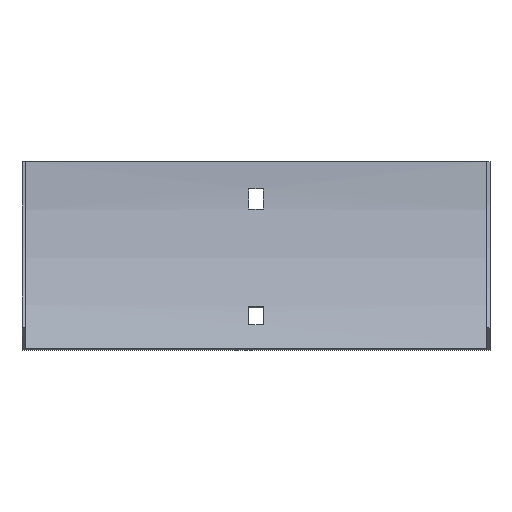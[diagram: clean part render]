
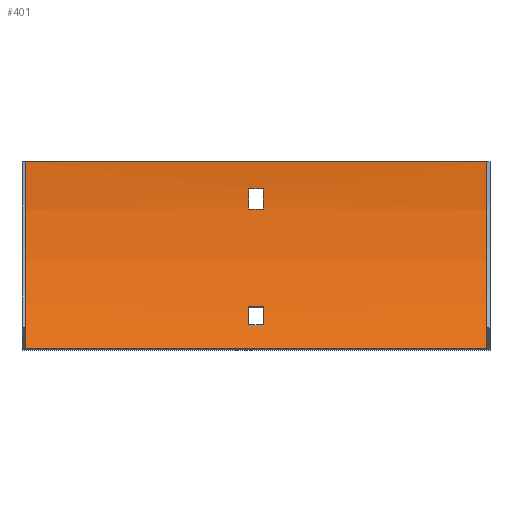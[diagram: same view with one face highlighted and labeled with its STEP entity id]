
A CAD part, front view. The second image highlights one B-rep face of the part: STEP entity #401.
In plain terms, the highlighted cylindrical face has radius 165.5 mm (diameter 331 mm), a partial arc.
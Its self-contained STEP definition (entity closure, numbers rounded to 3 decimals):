
#1 = DIRECTION ( 'NONE',  ( 0., 0., 1. ) ) ;
#3 = CIRCLE ( 'NONE', #74, 165.5 ) ;
#8 = CARTESIAN_POINT ( 'NONE',  ( -3.25, -2.838, -21. ) ) ;
#9 = AXIS2_PLACEMENT_3D ( 'NONE', #508, #593, #498 ) ;
#16 = CARTESIAN_POINT ( 'NONE',  ( 102., -1.5, 0. ) ) ;
#22 = VERTEX_POINT ( 'NONE', #198 ) ;
#24 = VERTEX_POINT ( 'NONE', #203 ) ;
#25 = CARTESIAN_POINT ( 'NONE',  ( -102., -167., 0. ) ) ;
#27 = CARTESIAN_POINT ( 'NONE',  ( -3.25, -14.331, -63.895 ) ) ;
#32 = EDGE_LOOP ( 'NONE', ( #264, #36, #178, #390 ) ) ;
#34 = CIRCLE ( 'NONE', #45, 165.5 ) ;
#36 = ORIENTED_EDGE ( 'NONE', *, *, #110, .F. ) ;
#45 = AXIS2_PLACEMENT_3D ( 'NONE', #404, #262, #586 ) ;
#47 = CARTESIAN_POINT ( 'NONE',  ( 103.5, -14.331, -63.895 ) ) ;
#53 = VERTEX_POINT ( 'NONE', #433 ) ;
#63 = EDGE_CURVE ( 'NONE', #239, #407, #297, .T. ) ;
#65 = VECTOR ( 'NONE', #492, 1000. ) ;
#71 = DIRECTION ( 'NONE',  ( 0., 0., 1. ) ) ;
#73 = LINE ( 'NONE', #446, #65 ) ;
#74 = AXIS2_PLACEMENT_3D ( 'NONE', #238, #421, #171 ) ;
#75 = CARTESIAN_POINT ( 'NONE',  ( -3.25, -1.936, -12. ) ) ;
#110 = EDGE_CURVE ( 'NONE', #24, #515, #159, .T. ) ;
#112 = LINE ( 'NONE', #16, #219 ) ;
#114 = EDGE_CURVE ( 'NONE', #22, #298, #112, .T. ) ;
#116 = ORIENTED_EDGE ( 'NONE', *, *, #63, .T. ) ;
#117 = DIRECTION ( 'NONE',  ( -1., 0., 0. ) ) ;
#118 = LINE ( 'NONE', #451, #135 ) ;
#134 = CIRCLE ( 'NONE', #9, 165.5 ) ;
#135 = VECTOR ( 'NONE', #585, 1000. ) ;
#148 = ORIENTED_EDGE ( 'NONE', *, *, #577, .T. ) ;
#153 = EDGE_CURVE ( 'NONE', #335, #24, #34, .T. ) ;
#159 = LINE ( 'NONE', #529, #348 ) ;
#164 = AXIS2_PLACEMENT_3D ( 'NONE', #405, #536, #221 ) ;
#167 = DIRECTION ( 'NONE',  ( -1., 0., 0. ) ) ;
#168 = VERTEX_POINT ( 'NONE', #8 ) ;
#171 = DIRECTION ( 'NONE',  ( 0., 0., 1. ) ) ;
#178 = ORIENTED_EDGE ( 'NONE', *, *, #153, .F. ) ;
#183 = EDGE_CURVE ( 'NONE', #53, #570, #73, .T. ) ;
#198 = CARTESIAN_POINT ( 'NONE',  ( 102., -1.5, 0. ) ) ;
#202 = FACE_BOUND ( 'NONE', #32, .T. ) ;
#203 = CARTESIAN_POINT ( 'NONE',  ( 3.25, -1.936, -12. ) ) ;
#204 = EDGE_CURVE ( 'NONE', #168, #335, #270, .T. ) ;
#207 = ORIENTED_EDGE ( 'NONE', *, *, #528, .F. ) ;
#209 = DIRECTION ( 'NONE',  ( 1., 0., 0. ) ) ;
#216 = AXIS2_PLACEMENT_3D ( 'NONE', #267, #363, #71 ) ;
#219 = VECTOR ( 'NONE', #117, 1000. ) ;
#221 = DIRECTION ( 'NONE',  ( 0., 0., -1. ) ) ;
#222 = ORIENTED_EDGE ( 'NONE', *, *, #566, .F. ) ;
#236 = CARTESIAN_POINT ( 'NONE',  ( -102., -23.673, -82.75 ) ) ;
#238 = CARTESIAN_POINT ( 'NONE',  ( 3.25, -167., 0. ) ) ;
#239 = VERTEX_POINT ( 'NONE', #27 ) ;
#262 = DIRECTION ( 'NONE',  ( 1., 0., 0. ) ) ;
#264 = ORIENTED_EDGE ( 'NONE', *, *, #333, .F. ) ;
#267 = CARTESIAN_POINT ( 'NONE',  ( 102., -167., 0. ) ) ;
#270 = LINE ( 'NONE', #305, #300 ) ;
#278 = CARTESIAN_POINT ( 'NONE',  ( 102., -23.673, -82.75 ) ) ;
#297 = LINE ( 'NONE', #47, #550 ) ;
#298 = VERTEX_POINT ( 'NONE', #459 ) ;
#300 = VECTOR ( 'NONE', #209, 1000. ) ;
#301 = FACE_OUTER_BOUND ( 'NONE', #465, .T. ) ;
#305 = CARTESIAN_POINT ( 'NONE',  ( 103.5, -2.838, -21. ) ) ;
#317 = AXIS2_PLACEMENT_3D ( 'NONE', #25, #532, #458 ) ;
#322 = VERTEX_POINT ( 'NONE', #236 ) ;
#325 = ORIENTED_EDGE ( 'NONE', *, *, #114, .T. ) ;
#328 = CARTESIAN_POINT ( 'NONE',  ( 3.25, -2.838, -21. ) ) ;
#333 = EDGE_CURVE ( 'NONE', #515, #168, #134, .T. ) ;
#335 = VERTEX_POINT ( 'NONE', #328 ) ;
#344 = CARTESIAN_POINT ( 'NONE',  ( 103.5, -167., 0. ) ) ;
#348 = VECTOR ( 'NONE', #167, 1000. ) ;
#356 = AXIS2_PLACEMENT_3D ( 'NONE', #344, #377, #1 ) ;
#363 = DIRECTION ( 'NONE',  ( 1., 0., 0. ) ) ;
#377 = DIRECTION ( 'NONE',  ( -1., 0., 0. ) ) ;
#389 = CYLINDRICAL_SURFACE ( 'NONE', #356, 165.5 ) ;
#390 = ORIENTED_EDGE ( 'NONE', *, *, #204, .F. ) ;
#397 = EDGE_CURVE ( 'NONE', #407, #53, #3, .T. ) ;
#401 = ADVANCED_FACE ( 'NONE', ( #202, #301, #568 ), #389, .F. ) ;
#404 = CARTESIAN_POINT ( 'NONE',  ( 3.25, -167., 0. ) ) ;
#405 = CARTESIAN_POINT ( 'NONE',  ( -3.25, -167., 0. ) ) ;
#407 = VERTEX_POINT ( 'NONE', #428 ) ;
#411 = CARTESIAN_POINT ( 'NONE',  ( -3.25, -18.05, -72.14 ) ) ;
#415 = ORIENTED_EDGE ( 'NONE', *, *, #531, .T. ) ;
#421 = DIRECTION ( 'NONE',  ( -1., 0., 0. ) ) ;
#424 = CIRCLE ( 'NONE', #317, 165.5 ) ;
#426 = DIRECTION ( 'NONE',  ( 1., 0., 0. ) ) ;
#428 = CARTESIAN_POINT ( 'NONE',  ( 3.25, -14.331, -63.895 ) ) ;
#433 = CARTESIAN_POINT ( 'NONE',  ( 3.25, -18.05, -72.14 ) ) ;
#439 = ORIENTED_EDGE ( 'NONE', *, *, #183, .T. ) ;
#446 = CARTESIAN_POINT ( 'NONE',  ( 103.5, -18.05, -72.14 ) ) ;
#451 = CARTESIAN_POINT ( 'NONE',  ( 102., -23.673, -82.75 ) ) ;
#456 = CIRCLE ( 'NONE', #164, 165.5 ) ;
#458 = DIRECTION ( 'NONE',  ( 0., 0., 1. ) ) ;
#459 = CARTESIAN_POINT ( 'NONE',  ( -102., -1.5, 0. ) ) ;
#465 = EDGE_LOOP ( 'NONE', ( #222, #207, #148, #325 ) ) ;
#492 = DIRECTION ( 'NONE',  ( -1., 0., 0. ) ) ;
#498 = DIRECTION ( 'NONE',  ( 0., 0., 1. ) ) ;
#508 = CARTESIAN_POINT ( 'NONE',  ( -3.25, -167., 0. ) ) ;
#512 = ORIENTED_EDGE ( 'NONE', *, *, #397, .T. ) ;
#513 = VERTEX_POINT ( 'NONE', #278 ) ;
#515 = VERTEX_POINT ( 'NONE', #75 ) ;
#528 = EDGE_CURVE ( 'NONE', #513, #322, #118, .T. ) ;
#529 = CARTESIAN_POINT ( 'NONE',  ( 103.5, -1.936, -12. ) ) ;
#531 = EDGE_CURVE ( 'NONE', #570, #239, #456, .T. ) ;
#532 = DIRECTION ( 'NONE',  ( 1., 0., 0. ) ) ;
#536 = DIRECTION ( 'NONE',  ( 1., 0., 0. ) ) ;
#549 = CIRCLE ( 'NONE', #216, 165.5 ) ;
#550 = VECTOR ( 'NONE', #426, 1000. ) ;
#566 = EDGE_CURVE ( 'NONE', #322, #298, #424, .T. ) ;
#568 = FACE_BOUND ( 'NONE', #596, .T. ) ;
#570 = VERTEX_POINT ( 'NONE', #411 ) ;
#577 = EDGE_CURVE ( 'NONE', #513, #22, #549, .T. ) ;
#585 = DIRECTION ( 'NONE',  ( -1., 0., 0. ) ) ;
#586 = DIRECTION ( 'NONE',  ( 0., 0., -1. ) ) ;
#593 = DIRECTION ( 'NONE',  ( -1., 0., 0. ) ) ;
#596 = EDGE_LOOP ( 'NONE', ( #439, #415, #116, #512 ) ) ;
